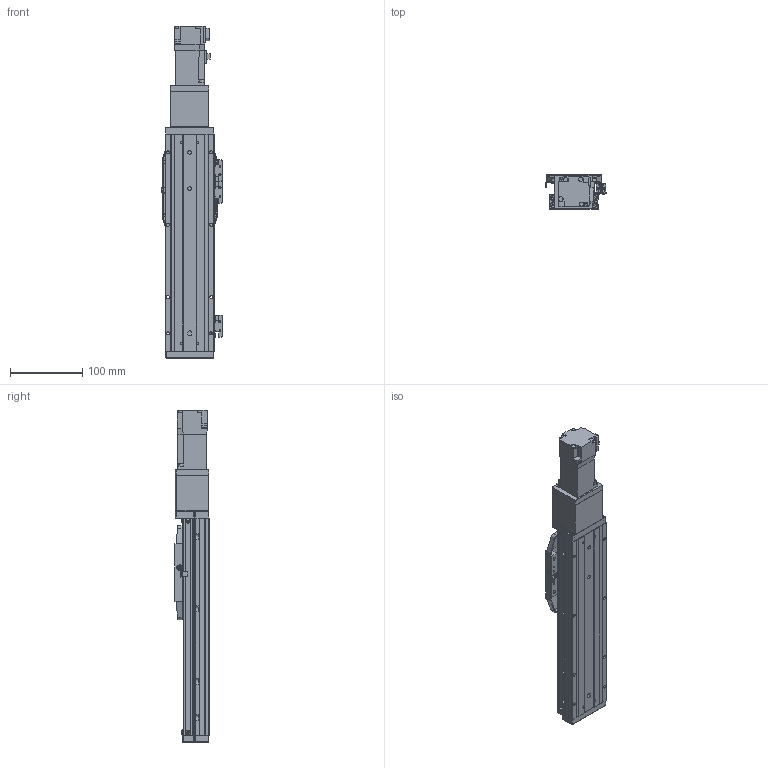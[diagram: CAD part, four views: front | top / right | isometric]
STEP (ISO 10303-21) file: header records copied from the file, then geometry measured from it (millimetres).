
FILE_DESCRIPTION (( 'STEP AP214' ), '1' );
FILE_NAME ('CTHA60-150-BC-M10-C4L.step', '2022-03-19T06:09:26', ( '微软用户' ), ( '微软中国' ), 'SwSTEP 2.0', 'SolidWorks 2020', '' );
FILE_SCHEMA (( 'AUTOMOTIVE_DESIGN' ));
Length unit declared in the file: millimetre
Products named in the file (19): CTHA60-001_300; CTHA60-006; GB¨uT 70.2-M3¡Á6_M3¡Á6; CTHA60-031; CTHA60-021; GBT 70.1-M3℅6; CTHA60-027; CTHA60-004; HG-KR13（三菱）; EE_SX911P_R; CTHA60-150-BC-M10-C4L; GBT 70.1-M4×16; GBT 70.3-M3℅6; CTHA60-013; CTHA60-005; CTHA60-002; CTHA60-017; GBT77-2000 M3×3; CTHA60-016
Assembly tree (57 placements, depth 2):
  CTHA60-150-BC-M10-C4L
    CTHA60-001_300
    CTHA60-004
    CTHA60-005
    GB¨uT 70.2-M3¡Á6_M3¡Á6  x10
    EE_SX911P_R  x3
    CTHA60-017  x3
    CTHA60-021  x2
    GBT 70.1-M4×16  x10
    GBT77-2000 M3×3  x6
    GBT 70.1-M3℅6  x6
    GBT 70.3-M3℅6  x6
    CTHA60-016  x2
    CTHA60-027
    CTHA60-013
    CTHA60-006
    HG-KR13（三菱）
    CTHA60-002
    CTHA60-031
Bounding box: 83.12 x 48 x 458.6 mm (x, y, z)
Volume: 824649.6 mm3; surface area: 236083.3 mm2
Topology: 59 solids, 59 shells, 2395 faces, 5685 edges, 3479 vertices
Faces by surface type: plane 1390, cylinder 531, cone 354, torus 96, sphere 24
Entity records: 37172 total; most frequent: CARTESIAN_POINT 6256, DIRECTION 6162, ORIENTED_EDGE 5950, EDGE_CURVE 2975, VECTOR 2190, LINE 2190, AXIS2_PLACEMENT_3D 1986, VERTEX_POINT 1876
